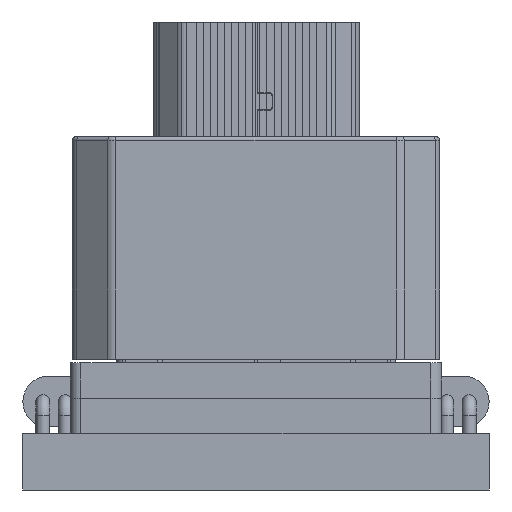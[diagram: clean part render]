
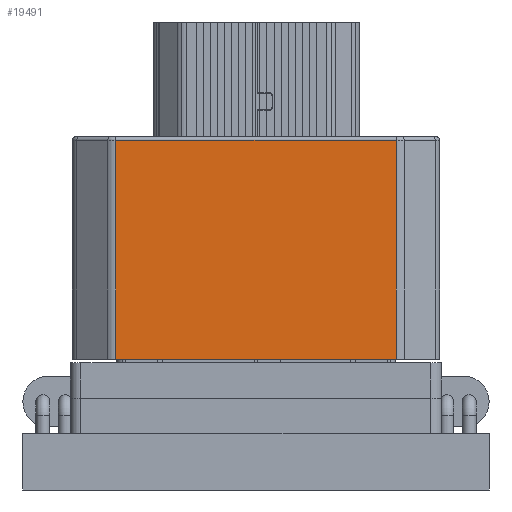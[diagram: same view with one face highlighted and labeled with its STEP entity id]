
A CAD part, front view. The second image highlights one B-rep face of the part: STEP entity #19491.
In plain terms, the highlighted planar face has unit normal (0, -1, 0) as drawn and (0, 1, 0) by its records, which use the part's own axes.
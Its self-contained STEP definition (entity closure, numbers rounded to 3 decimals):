
#18278 = VERTEX_POINT('',#18279);
#18279 = CARTESIAN_POINT('',(3.972,-3.,6.3));
#18286 = EDGE_CURVE('',#18287,#18278,#18289,.T.);
#18287 = VERTEX_POINT('',#18288);
#18288 = CARTESIAN_POINT('',(-3.972,-3.,6.3));
#18289 = LINE('',#18290,#18291);
#18290 = CARTESIAN_POINT('',(-4.1,-3.,6.3));
#18291 = VECTOR('',#18292,1.);
#18292 = DIRECTION('',(1.,0.,0.));
#19491 = ADVANCED_FACE('',(#19492),#19517,.F.);
#19492 = FACE_BOUND('',#19493,.T.);
#19493 = EDGE_LOOP('',(#19494,#19502,#19510,#19516));
#19494 = ORIENTED_EDGE('',*,*,#19495,.T.);
#19495 = EDGE_CURVE('',#18278,#19496,#19498,.T.);
#19496 = VERTEX_POINT('',#19497);
#19497 = CARTESIAN_POINT('',(3.972,-3.,0.1));
#19498 = LINE('',#19499,#19500);
#19499 = CARTESIAN_POINT('',(3.972,-3.,0.));
#19500 = VECTOR('',#19501,1.);
#19501 = DIRECTION('',(0.,0.,-1.));
#19502 = ORIENTED_EDGE('',*,*,#19503,.T.);
#19503 = EDGE_CURVE('',#19496,#19504,#19506,.T.);
#19504 = VERTEX_POINT('',#19505);
#19505 = CARTESIAN_POINT('',(-3.972,-3.,0.1));
#19506 = LINE('',#19507,#19508);
#19507 = CARTESIAN_POINT('',(-3.972,-3.,0.1));
#19508 = VECTOR('',#19509,1.);
#19509 = DIRECTION('',(-1.,0.,0.));
#19510 = ORIENTED_EDGE('',*,*,#19511,.T.);
#19511 = EDGE_CURVE('',#19504,#18287,#19512,.T.);
#19512 = LINE('',#19513,#19514);
#19513 = CARTESIAN_POINT('',(-3.972,-3.,0.));
#19514 = VECTOR('',#19515,1.);
#19515 = DIRECTION('',(0.,0.,1.));
#19516 = ORIENTED_EDGE('',*,*,#18286,.T.);
#19517 = PLANE('',#19518);
#19518 = AXIS2_PLACEMENT_3D('',#19519,#19520,#19521);
#19519 = CARTESIAN_POINT('',(-4.1,-3.,0.));
#19520 = DIRECTION('',(0.,-1.,0.));
#19521 = DIRECTION('',(0.,0.,-1.));
